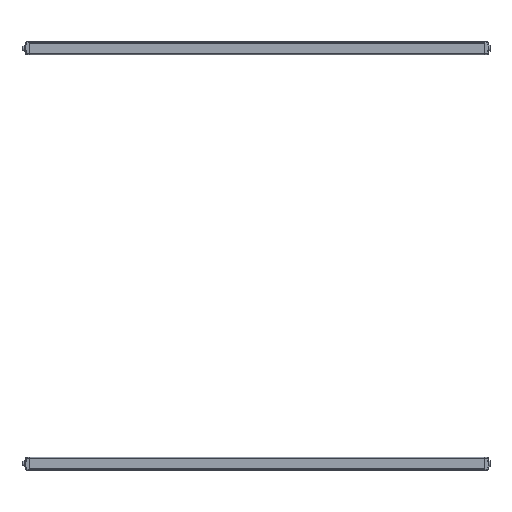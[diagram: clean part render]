
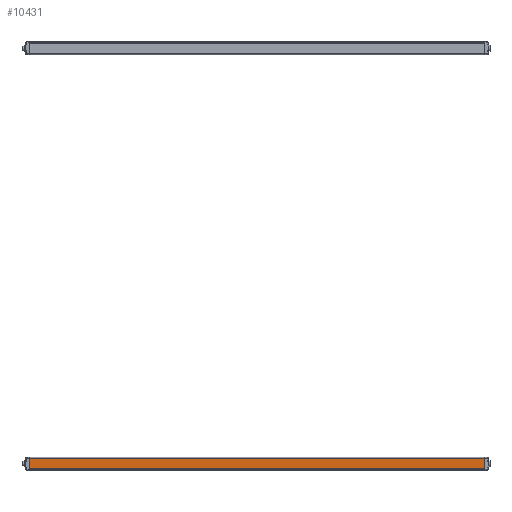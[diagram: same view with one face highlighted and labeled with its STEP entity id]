
A CAD part, front view. The second image highlights one B-rep face of the part: STEP entity #10431.
In plain terms, the highlighted planar face has unit normal (0, -1, 0) as drawn and (0, 1, 0) by its records, which use the part's own axes.
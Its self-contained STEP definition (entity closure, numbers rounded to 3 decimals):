
#754=LINE('',#15338,#1927);
#824=LINE('',#15490,#1997);
#918=LINE('',#15690,#2091);
#919=LINE('',#15691,#2092);
#1927=VECTOR('',#12160,1000.);
#1997=VECTOR('',#12258,1000.);
#2091=VECTOR('',#12444,1000.);
#2092=VECTOR('',#12445,1000.);
#3410=ORIENTED_EDGE('',*,*,#6192,.F.);
#3411=ORIENTED_EDGE('',*,*,#6294,.F.);
#3412=ORIENTED_EDGE('',*,*,#6115,.T.);
#3413=ORIENTED_EDGE('',*,*,#6295,.T.);
#6115=EDGE_CURVE('',#7621,#7620,#754,.T.);
#6192=EDGE_CURVE('',#7688,#7689,#824,.T.);
#6294=EDGE_CURVE('',#7621,#7688,#918,.T.);
#6295=EDGE_CURVE('',#7620,#7689,#919,.T.);
#7620=VERTEX_POINT('',#15337);
#7621=VERTEX_POINT('',#15339);
#7688=VERTEX_POINT('',#15489);
#7689=VERTEX_POINT('',#15491);
#8881=EDGE_LOOP('',(#3410,#3411,#3412,#3413));
#9465=FACE_BOUND('',#8881,.T.);
#10046=PLANE('',#11081);
#10431=ADVANCED_FACE('',(#9465),#10046,.T.);
#11081=AXIS2_PLACEMENT_3D('',#15689,#12442,#12443);
#12160=DIRECTION('',(0.,0.,1.));
#12258=DIRECTION('',(0.,0.,1.));
#12442=DIRECTION('',(0.,1.,0.));
#12443=DIRECTION('',(0.,0.,-1.));
#12444=DIRECTION('',(1.,0.,0.));
#12445=DIRECTION('',(1.,0.,0.));
#15337=CARTESIAN_POINT('',(0.,15.15,12.));
#15338=CARTESIAN_POINT('',(0.,15.15,-12.));
#15339=CARTESIAN_POINT('',(0.,15.15,-12.));
#15489=CARTESIAN_POINT('',(1125.,15.15,-12.));
#15490=CARTESIAN_POINT('',(1125.,15.15,0.));
#15491=CARTESIAN_POINT('',(1125.,15.15,12.));
#15689=CARTESIAN_POINT('',(0.,15.15,-15.65));
#15690=CARTESIAN_POINT('',(0.,15.15,-12.));
#15691=CARTESIAN_POINT('',(0.,15.15,12.));
